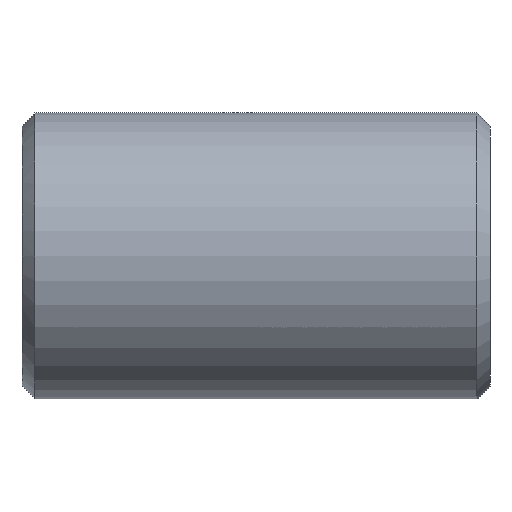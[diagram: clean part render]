
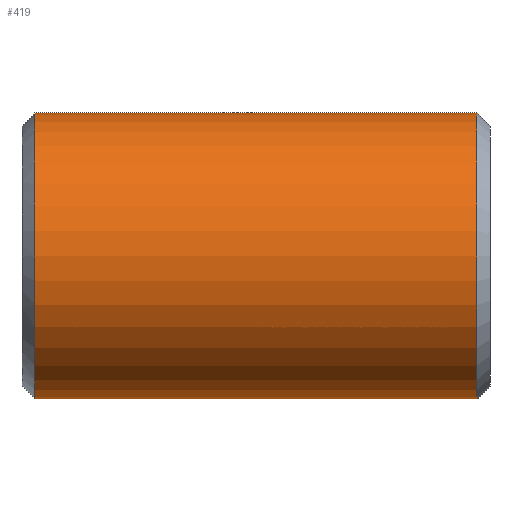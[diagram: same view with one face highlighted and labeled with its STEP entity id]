
A CAD part, front view. The second image highlights one B-rep face of the part: STEP entity #419.
In plain terms, the highlighted cylindrical face has radius 11 mm (diameter 22 mm), a partial arc.
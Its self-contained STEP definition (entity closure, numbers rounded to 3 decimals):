
#231=CARTESIAN_POINT('Vertex',(1.,0.,-11.)) ;
#238=CARTESIAN_POINT('Vertex',(1.,0.,11.)) ;
#267=CARTESIAN_POINT('Axis2P3D Location',(1.,0.,0.)) ;
#271=CARTESIAN_POINT('Vertex',(1.,-11.,0.)) ;
#274=CARTESIAN_POINT('Axis2P3D Location',(1.,0.,0.)) ;
#359=CARTESIAN_POINT('Line Origine',(36.,0.,11.)) ;
#363=CARTESIAN_POINT('Vertex',(35.,0.,11.)) ;
#377=CARTESIAN_POINT('Vertex',(35.,0.,-11.)) ;
#380=CARTESIAN_POINT('Line Origine',(36.,0.,-11.)) ;
#394=CARTESIAN_POINT('Axis2P3D Location',(36.,0.,0.)) ;
#399=CARTESIAN_POINT('Axis2P3D Location',(35.,0.,0.)) ;
#403=CARTESIAN_POINT('Vertex',(35.,-11.,0.)) ;
#406=CARTESIAN_POINT('Axis2P3D Location',(35.,0.,0.)) ;
#268=DIRECTION('Axis2P3D Direction',(1.,0.,-0.)) ;
#275=DIRECTION('Axis2P3D Direction',(1.,0.,-0.)) ;
#360=DIRECTION('Vector Direction',(-1.,0.,0.)) ;
#381=DIRECTION('Vector Direction',(-1.,0.,0.)) ;
#395=DIRECTION('Axis2P3D Direction',(-1.,-0.,-0.)) ;
#396=DIRECTION('Axis2P3D XDirection',(0.,0.,-1.)) ;
#400=DIRECTION('Axis2P3D Direction',(-1.,-0.,-0.)) ;
#407=DIRECTION('Axis2P3D Direction',(-1.,-0.,-0.)) ;
#269=AXIS2_PLACEMENT_3D('Circle Axis2P3D',#267,#268,$) ;
#276=AXIS2_PLACEMENT_3D('Circle Axis2P3D',#274,#275,$) ;
#397=AXIS2_PLACEMENT_3D('Cylinder Axis2P3D',#394,#395,#396) ;
#401=AXIS2_PLACEMENT_3D('Circle Axis2P3D',#399,#400,$) ;
#408=AXIS2_PLACEMENT_3D('Circle Axis2P3D',#406,#407,$) ;
#412=ORIENTED_EDGE('',*,*,#384,.T.) ;
#413=ORIENTED_EDGE('',*,*,#405,.F.) ;
#414=ORIENTED_EDGE('',*,*,#410,.F.) ;
#415=ORIENTED_EDGE('',*,*,#365,.T.) ;
#416=ORIENTED_EDGE('',*,*,#278,.T.) ;
#417=ORIENTED_EDGE('',*,*,#273,.T.) ;
#361=VECTOR('Line Direction',#360,1.) ;
#382=VECTOR('Line Direction',#381,1.) ;
#419=ADVANCED_FACE('352-16X36',(#418),#398,.T.) ;
#270=CIRCLE('generated circle',#269,11.) ;
#277=CIRCLE('generated circle',#276,11.) ;
#402=CIRCLE('generated circle',#401,11.) ;
#409=CIRCLE('generated circle',#408,11.) ;
#398=CYLINDRICAL_SURFACE('generated cylinder',#397,11.) ;
#273=EDGE_CURVE('',#272,#232,#270,.T.) ;
#278=EDGE_CURVE('',#239,#272,#277,.T.) ;
#365=EDGE_CURVE('',#364,#239,#362,.T.) ;
#384=EDGE_CURVE('',#232,#378,#383,.F.) ;
#405=EDGE_CURVE('',#404,#378,#402,.F.) ;
#410=EDGE_CURVE('',#364,#404,#409,.F.) ;
#411=EDGE_LOOP('',(#412,#413,#414,#415,#416,#417)) ;
#418=FACE_OUTER_BOUND('',#411,.T.) ;
#362=LINE('Line',#359,#361) ;
#383=LINE('Line',#380,#382) ;
#232=VERTEX_POINT('',#231) ;
#239=VERTEX_POINT('',#238) ;
#272=VERTEX_POINT('',#271) ;
#364=VERTEX_POINT('',#363) ;
#378=VERTEX_POINT('',#377) ;
#404=VERTEX_POINT('',#403) ;
